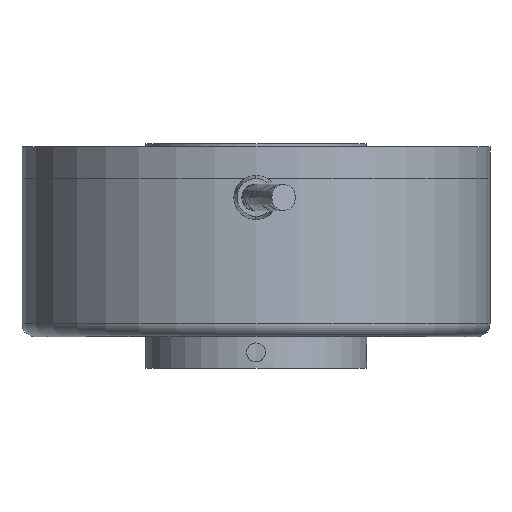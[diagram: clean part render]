
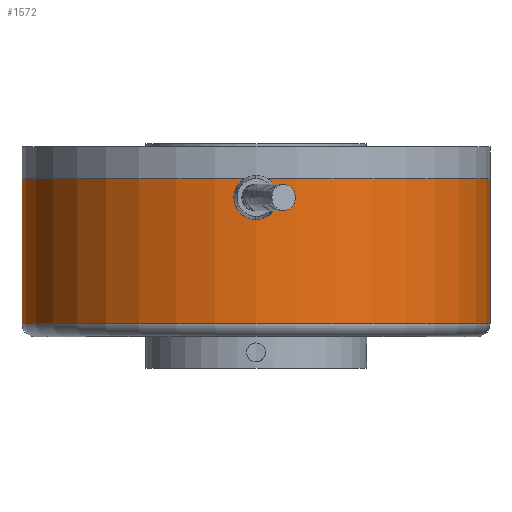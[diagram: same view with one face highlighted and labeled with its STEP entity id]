
A CAD part, front view. The second image highlights one B-rep face of the part: STEP entity #1572.
In plain terms, the highlighted cylindrical face has radius 37 mm (diameter 74 mm), a partial arc.
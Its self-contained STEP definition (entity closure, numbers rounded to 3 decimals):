
#5 = EDGE_CURVE ( 'NONE', #1070, #38, #1491, .T. ) ;
#19 = VECTOR ( 'NONE', #719, 1000. ) ;
#38 = VERTEX_POINT ( 'NONE', #1032 ) ;
#54 = CYLINDRICAL_SURFACE ( 'NONE', #663, 37. ) ;
#83 = EDGE_CURVE ( 'NONE', #38, #614, #617, .T. ) ;
#123 = AXIS2_PLACEMENT_3D ( 'NONE', #1653, #807, #1243 ) ;
#161 = ORIENTED_EDGE ( 'NONE', *, *, #5, .T. ) ;
#206 = AXIS2_PLACEMENT_3D ( 'NONE', #1141, #1256, #1151 ) ;
#208 = EDGE_LOOP ( 'NONE', ( #566, #161, #692, #351 ) ) ;
#325 = CARTESIAN_POINT ( 'NONE',  ( 37., 0., -25. ) ) ;
#351 = ORIENTED_EDGE ( 'NONE', *, *, #857, .F. ) ;
#355 = CARTESIAN_POINT ( 'NONE',  ( -37., 0., -23. ) ) ;
#566 = ORIENTED_EDGE ( 'NONE', *, *, #1460, .F. ) ;
#614 = VERTEX_POINT ( 'NONE', #735 ) ;
#617 = LINE ( 'NONE', #325, #1697 ) ;
#663 = AXIS2_PLACEMENT_3D ( 'NONE', #959, #1432, #1270 ) ;
#692 = ORIENTED_EDGE ( 'NONE', *, *, #83, .T. ) ;
#719 = DIRECTION ( 'NONE',  ( 0., 0., 1. ) ) ;
#735 = CARTESIAN_POINT ( 'NONE',  ( 37., 0., 0. ) ) ;
#807 = DIRECTION ( 'NONE',  ( 0., 0., 1. ) ) ;
#857 = EDGE_CURVE ( 'NONE', #1107, #614, #1312, .T. ) ;
#959 = CARTESIAN_POINT ( 'NONE',  ( 0., 0., -25. ) ) ;
#1022 = CARTESIAN_POINT ( 'NONE',  ( -37., 0., 0. ) ) ;
#1032 = CARTESIAN_POINT ( 'NONE',  ( 37., 0., -23. ) ) ;
#1070 = VERTEX_POINT ( 'NONE', #355 ) ;
#1107 = VERTEX_POINT ( 'NONE', #1022 ) ;
#1141 = CARTESIAN_POINT ( 'NONE',  ( 0., 0., -23. ) ) ;
#1151 = DIRECTION ( 'NONE',  ( 1., 0., 0. ) ) ;
#1243 = DIRECTION ( 'NONE',  ( 1., 0., 0. ) ) ;
#1256 = DIRECTION ( 'NONE',  ( 0., 0., 1. ) ) ;
#1270 = DIRECTION ( 'NONE',  ( 1., 0., 0. ) ) ;
#1312 = CIRCLE ( 'NONE', #123, 37. ) ;
#1432 = DIRECTION ( 'NONE',  ( 0., 0., 1. ) ) ;
#1460 = EDGE_CURVE ( 'NONE', #1070, #1107, #1543, .T. ) ;
#1491 = CIRCLE ( 'NONE', #206, 37. ) ;
#1534 = FACE_OUTER_BOUND ( 'NONE', #208, .T. ) ;
#1543 = LINE ( 'NONE', #1647, #19 ) ;
#1572 = ADVANCED_FACE ( 'NONE', ( #1534 ), #54, .T. ) ;
#1647 = CARTESIAN_POINT ( 'NONE',  ( -37., 0., -25. ) ) ;
#1653 = CARTESIAN_POINT ( 'NONE',  ( 0., 0., 0. ) ) ;
#1697 = VECTOR ( 'NONE', #1703, 1000. ) ;
#1703 = DIRECTION ( 'NONE',  ( 0., 0., 1. ) ) ;
